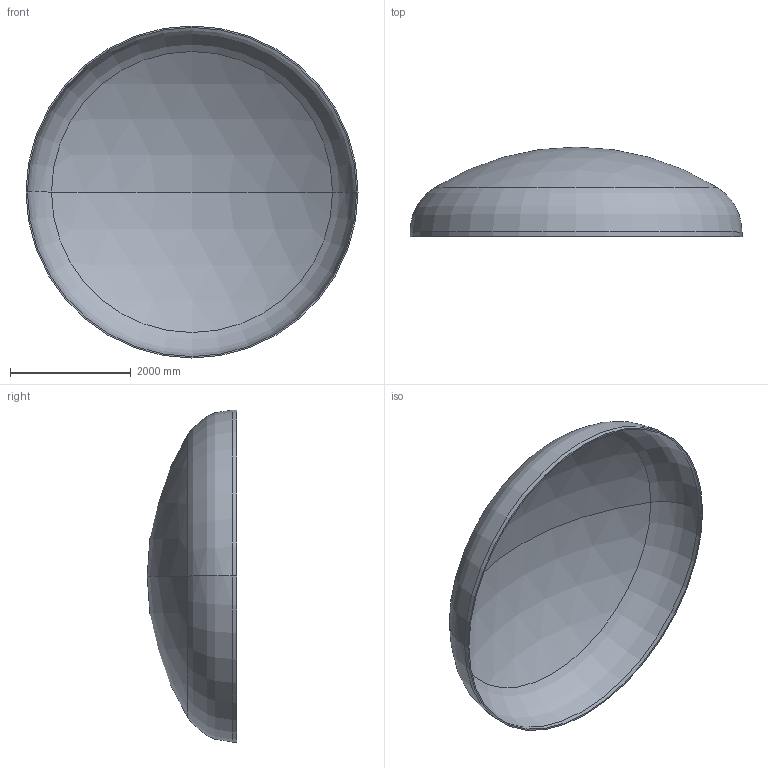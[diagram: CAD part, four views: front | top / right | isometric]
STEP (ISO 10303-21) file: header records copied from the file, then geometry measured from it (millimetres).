
FILE_DESCRIPTION (( 'STEP AP203' ), '1' );
FILE_NAME ('DIN 28013 Korbbogenform_-_Boden DIN 28013 - 5500 x 75 - I - s=24.step', '2016-07-04T10:33:46', ( '' ), ( '' ), 'SwSTEP 2.0', 'SolidWorks 2013', '' );
FILE_SCHEMA (( 'CONFIG_CONTROL_DESIGN' ));
Length unit declared in the file: millimetre
Products named in the file (1): DIN 28013 Korbbogenform_-_Boden DIN 28013 - 5500 x 75 - I - s=24
Bounding box: 5500 x 1482.4 x 5500 mm (x, y, z)
Volume: 815815486.4 mm3; surface area: 68398683.7 mm2
Topology: 1 solids, 1 shells, 13 faces, 24 edges, 14 vertices
Faces by surface type: torus 4, cylinder 4, sphere 4, plane 1
Entity records: 407 total; most frequent: DIRECTION 72, CARTESIAN_POINT 52, ORIENTED_EDGE 48, AXIS2_PLACEMENT_3D 34, EDGE_CURVE 24, CIRCLE 20, VERTEX_POINT 14, EDGE_LOOP 14
